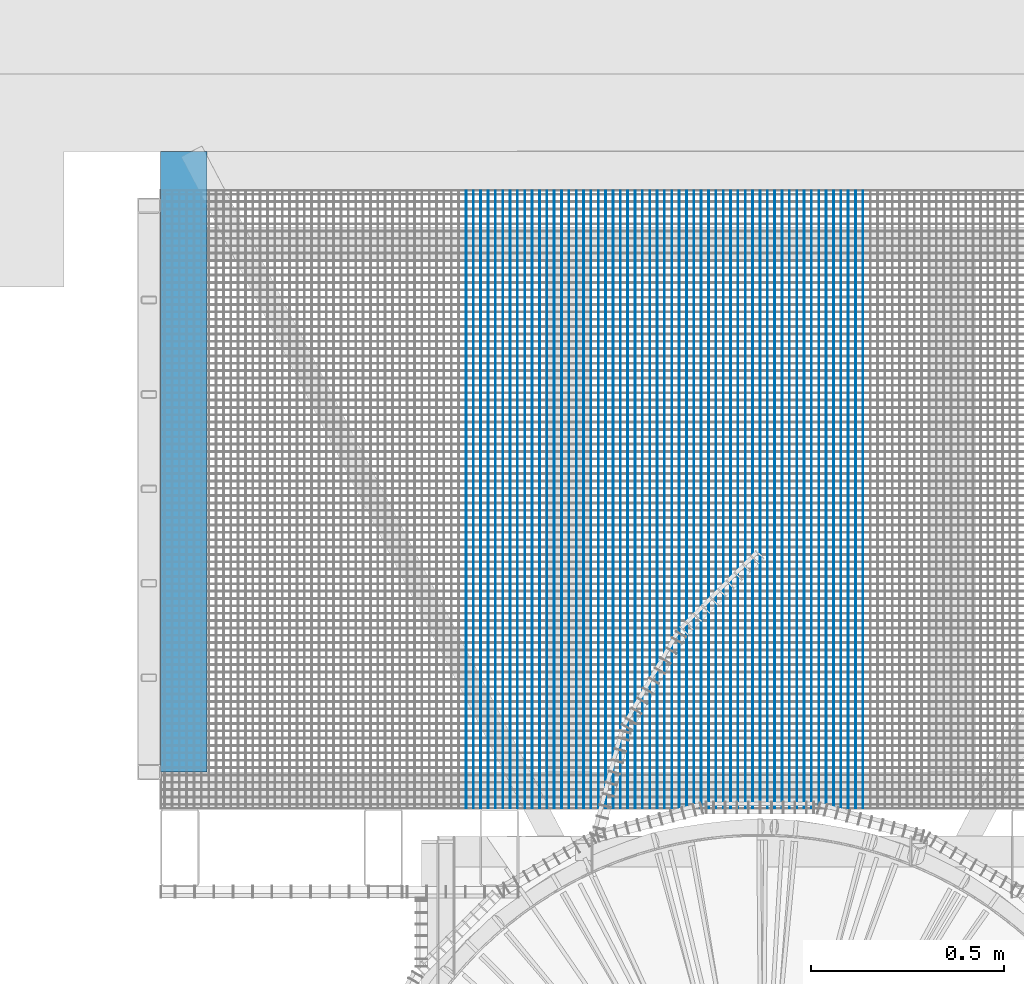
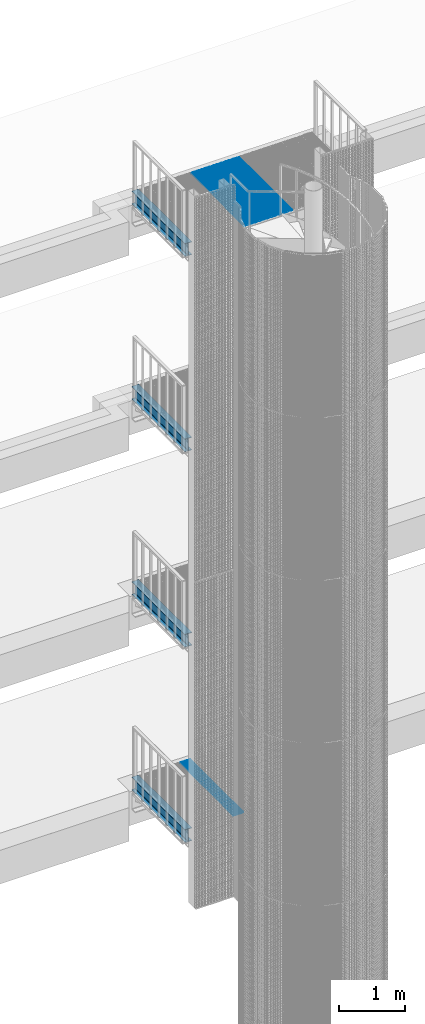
# One storey, part 81 of 1183: 59 beams, 6 elements without a shape of their own.
"""IFC2X3 building model written with IfcOpenShell, lengths in millimetres."""

from ifc_helpers import new_model, si_unit, frame, origin_with_axes, origin_2d_with_axis, place, context, subcontext, project, spatial, rectangle, i_section, extrude, material, type_object, element, aggregate, save


model = new_model("IFC2X3")

# Units and contexts
model_context = context("Model", 3, precision=1e-05, world=origin_with_axes())
body_context = subcontext(model_context, "Body", "Model", "MODEL_VIEW")
ifc_project = project(units=[si_unit("LENGTHUNIT", "METRE", prefix="MILLI"), si_unit("AREAUNIT", "SQUARE_METRE"), si_unit("VOLUMEUNIT", "CUBIC_METRE"), si_unit("MASSUNIT", "GRAM", prefix="KILO"), si_unit("TIMEUNIT", "SECOND"), si_unit("PLANEANGLEUNIT", "RADIAN"), si_unit("SOLIDANGLEUNIT", "STERADIAN"), si_unit("THERMODYNAMICTEMPERATUREUNIT", "DEGREE_CELSIUS"), si_unit("LUMINOUSINTENSITYUNIT", "LUMEN")], contexts=[model_context])

# Site, building, storey
site_placement = place(None, origin_with_axes())
site = spatial("IfcSite", under=ifc_project, at=site_placement, Name="Undefined", CompositionType="ELEMENT")
building_placement = place(site_placement, origin_with_axes())
building = spatial("IfcBuilding", under=site, at=building_placement, Name="Undefined", CompositionType="ELEMENT")
storey_placement = place(building_placement, origin_with_axes())
storey = spatial("IfcBuildingStorey", under=building, at=storey_placement, Name="Undefined", CompositionType="ELEMENT", Elevation=0.0)

# Assembly, beams
assembly_1_placement = place(storey_placement, origin_with_axes())
assembly_1 = element("IfcElementAssembly", 1, at=assembly_1_placement, inside=storey, Name="BORDURE", AssemblyPlace="NOTDEFINED", PredefinedType="NOTDEFINED")
ifc_material = material(Name="STEEL/S235JR")
beam_type_1 = type_object("IfcBeamType", Name="PL2*10", PredefinedType="NOTDEFINED")
beam_1_placement = place(assembly_1_placement, frame((-569.924575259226, 1101.99951347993, 17285.0), z_axis=(0.0, 0.0, 1.0), x_axis=(-4.50599999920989e-06, 0.999999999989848, 0.0)))
beam_1 = element("IfcBeam", 2, at=beam_1_placement, type_object=beam_type_1, material=ifc_material, Name="ENTRETOISE", context=body_context, shape_type="SweptSolid", body=[
    extrude(rectangle(XDim=2.0, YDim=10.0, at=origin_2d_with_axis()), frame((1596.0000000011, -1.35186458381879e-18, -7.27595761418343e-12), z_axis=(-1.0, 0.0, 0.0), x_axis=(0.0, -1.0, 0.0)), (0.0, 0.0, 1.0), 1596.0),
])
beam_2_placement = place(assembly_1_placement, frame((-550.92457525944, 1101.99960699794, 17285.0), z_axis=(0.0, 0.0, 1.0), x_axis=(-4.50599999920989e-06, 0.999999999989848, 0.0)))
beam_2 = element("IfcBeam", 3, at=beam_2_placement, type_object=beam_type_1, material=ifc_material, Name="ENTRETOISE", context=body_context, shape_type="SweptSolid", body=[
    extrude(rectangle(XDim=2.0, YDim=10.0, at=origin_2d_with_axis()), frame((1596.0000000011, -1.35186458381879e-18, -7.27595761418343e-12), z_axis=(-1.0, 0.0, 0.0), x_axis=(0.0, -1.0, 0.0)), (0.0, 0.0, 1.0), 1596.0),
])
beam_3_placement = place(assembly_1_placement, frame((-531.924575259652, 1101.99970051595, 17285.0), z_axis=(0.0, 0.0, 1.0), x_axis=(-4.50599999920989e-06, 0.999999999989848, 0.0)))
beam_3 = element("IfcBeam", 4, at=beam_3_placement, type_object=beam_type_1, material=ifc_material, Name="ENTRETOISE", context=body_context, shape_type="SweptSolid", body=[
    extrude(rectangle(XDim=2.0, YDim=10.0, at=origin_2d_with_axis()), frame((1596.0000000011, -1.35186458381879e-18, -7.27595761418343e-12), z_axis=(-1.0, 0.0, 0.0), x_axis=(0.0, -1.0, 0.0)), (0.0, 0.0, 1.0), 1596.0),
])
beam_4_placement = place(assembly_1_placement, frame((-512.924575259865, 1101.99979403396, 17285.0), z_axis=(0.0, 0.0, 1.0), x_axis=(-4.50599999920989e-06, 0.999999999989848, 0.0)))
beam_4 = element("IfcBeam", 5, at=beam_4_placement, type_object=beam_type_1, material=ifc_material, Name="ENTRETOISE", context=body_context, shape_type="SweptSolid", body=[
    extrude(rectangle(XDim=2.0, YDim=10.0, at=origin_2d_with_axis()), frame((1596.0000000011, -1.35186458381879e-18, -7.27595761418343e-12), z_axis=(-1.0, 0.0, 0.0), x_axis=(0.0, -1.0, 0.0)), (0.0, 0.0, 1.0), 1596.0),
])
beam_5_placement = place(assembly_1_placement, frame((-493.924575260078, 1101.99988755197, 17285.0), z_axis=(0.0, 0.0, 1.0), x_axis=(-4.50599999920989e-06, 0.999999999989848, 0.0)))
beam_5 = element("IfcBeam", 6, at=beam_5_placement, type_object=beam_type_1, material=ifc_material, Name="ENTRETOISE", context=body_context, shape_type="SweptSolid", body=[
    extrude(rectangle(XDim=2.0, YDim=10.0, at=origin_2d_with_axis()), frame((1596.0000000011, -1.35186458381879e-18, -7.27595761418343e-12), z_axis=(-1.0, 0.0, 0.0), x_axis=(0.0, -1.0, 0.0)), (0.0, 0.0, 1.0), 1596.0),
])
beam_6_placement = place(assembly_1_placement, frame((-474.924575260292, 1101.99998106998, 17285.0), z_axis=(0.0, 0.0, 1.0), x_axis=(-4.50599999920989e-06, 0.999999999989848, 0.0)))
beam_6 = element("IfcBeam", 7, at=beam_6_placement, type_object=beam_type_1, material=ifc_material, Name="ENTRETOISE", context=body_context, shape_type="SweptSolid", body=[
    extrude(rectangle(XDim=2.0, YDim=10.0, at=origin_2d_with_axis()), frame((1596.0000000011, -1.35186458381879e-18, -7.27595761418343e-12), z_axis=(-1.0, 0.0, 0.0), x_axis=(0.0, -1.0, 0.0)), (0.0, 0.0, 1.0), 1596.0),
])
beam_7_placement = place(assembly_1_placement, frame((-455.924575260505, 1102.00007458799, 17285.0), z_axis=(0.0, 0.0, 1.0), x_axis=(-4.50599999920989e-06, 0.999999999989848, 0.0)))
beam_7 = element("IfcBeam", 8, at=beam_7_placement, type_object=beam_type_1, material=ifc_material, Name="ENTRETOISE", context=body_context, shape_type="SweptSolid", body=[
    extrude(rectangle(XDim=2.0, YDim=10.0, at=origin_2d_with_axis()), frame((1596.0000000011, -1.35186458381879e-18, -7.27595761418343e-12), z_axis=(-1.0, 0.0, 0.0), x_axis=(0.0, -1.0, 0.0)), (0.0, 0.0, 1.0), 1596.0),
])
beam_8_placement = place(assembly_1_placement, frame((-436.924575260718, 1102.00016810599, 17285.0), z_axis=(0.0, 0.0, 1.0), x_axis=(-4.50599999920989e-06, 0.999999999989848, 0.0)))
beam_8 = element("IfcBeam", 9, at=beam_8_placement, type_object=beam_type_1, material=ifc_material, Name="ENTRETOISE", context=body_context, shape_type="SweptSolid", body=[
    extrude(rectangle(XDim=2.0, YDim=10.0, at=origin_2d_with_axis()), frame((1596.0000000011, -1.35186458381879e-18, -7.27595761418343e-12), z_axis=(-1.0, 0.0, 0.0), x_axis=(0.0, -1.0, 0.0)), (0.0, 0.0, 1.0), 1596.0),
])
beam_9_placement = place(assembly_1_placement, frame((-417.924575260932, 1102.000261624, 17285.0), z_axis=(0.0, 0.0, 1.0), x_axis=(-4.50599999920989e-06, 0.999999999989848, 0.0)))
beam_9 = element("IfcBeam", 10, at=beam_9_placement, type_object=beam_type_1, material=ifc_material, Name="ENTRETOISE", context=body_context, shape_type="SweptSolid", body=[
    extrude(rectangle(XDim=2.0, YDim=10.0, at=origin_2d_with_axis()), frame((1596.0000000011, -1.35186458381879e-18, -7.27595761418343e-12), z_axis=(-1.0, 0.0, 0.0), x_axis=(0.0, -1.0, 0.0)), (0.0, 0.0, 1.0), 1596.0),
])
beam_10_placement = place(assembly_1_placement, frame((-398.924575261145, 1102.00035514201, 17285.0), z_axis=(0.0, 0.0, 1.0), x_axis=(-4.50599999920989e-06, 0.999999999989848, 0.0)))
beam_10 = element("IfcBeam", 11, at=beam_10_placement, type_object=beam_type_1, material=ifc_material, Name="ENTRETOISE", context=body_context, shape_type="SweptSolid", body=[
    extrude(rectangle(XDim=2.0, YDim=10.0, at=origin_2d_with_axis()), frame((1596.0000000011, -1.35186458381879e-18, -7.27595761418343e-12), z_axis=(-1.0, 0.0, 0.0), x_axis=(0.0, -1.0, 0.0)), (0.0, 0.0, 1.0), 1596.0),
])
beam_11_placement = place(assembly_1_placement, frame((-379.924575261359, 1102.00044866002, 17285.0), z_axis=(0.0, 0.0, 1.0), x_axis=(-4.50599999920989e-06, 0.999999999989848, 0.0)))
beam_11 = element("IfcBeam", 12, at=beam_11_placement, type_object=beam_type_1, material=ifc_material, Name="ENTRETOISE", context=body_context, shape_type="SweptSolid", body=[
    extrude(rectangle(XDim=2.0, YDim=10.0, at=origin_2d_with_axis()), frame((1596.0000000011, -1.35186458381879e-18, -7.27595761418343e-12), z_axis=(-1.0, 0.0, 0.0), x_axis=(0.0, -1.0, 0.0)), (0.0, 0.0, 1.0), 1596.0),
])
beam_12_placement = place(assembly_1_placement, frame((-360.924575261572, 1102.00054217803, 17285.0), z_axis=(0.0, 0.0, 1.0), x_axis=(-4.50599999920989e-06, 0.999999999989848, 0.0)))
beam_12 = element("IfcBeam", 13, at=beam_12_placement, type_object=beam_type_1, material=ifc_material, Name="ENTRETOISE", context=body_context, shape_type="SweptSolid", body=[
    extrude(rectangle(XDim=2.0, YDim=10.0, at=origin_2d_with_axis()), frame((1596.0000000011, -1.35186458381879e-18, -7.27595761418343e-12), z_axis=(-1.0, 0.0, 0.0), x_axis=(0.0, -1.0, 0.0)), (0.0, 0.0, 1.0), 1596.0),
])
beam_13_placement = place(assembly_1_placement, frame((-341.924575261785, 1102.00063569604, 17285.0), z_axis=(0.0, 0.0, 1.0), x_axis=(-4.50599999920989e-06, 0.999999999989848, 0.0)))
beam_13 = element("IfcBeam", 14, at=beam_13_placement, type_object=beam_type_1, material=ifc_material, Name="ENTRETOISE", context=body_context, shape_type="SweptSolid", body=[
    extrude(rectangle(XDim=2.0, YDim=10.0, at=origin_2d_with_axis()), frame((1596.0000000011, -1.35186458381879e-18, -7.27595761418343e-12), z_axis=(-1.0, 0.0, 0.0), x_axis=(0.0, -1.0, 0.0)), (0.0, 0.0, 1.0), 1596.0),
])
beam_14_placement = place(assembly_1_placement, frame((-322.924575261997, 1102.00072921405, 17285.0), z_axis=(0.0, 0.0, 1.0), x_axis=(-4.50599999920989e-06, 0.999999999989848, 0.0)))
beam_14 = element("IfcBeam", 15, at=beam_14_placement, type_object=beam_type_1, material=ifc_material, Name="ENTRETOISE", context=body_context, shape_type="SweptSolid", body=[
    extrude(rectangle(XDim=2.0, YDim=10.0, at=origin_2d_with_axis()), frame((1596.0000000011, -1.35186458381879e-18, -7.27595761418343e-12), z_axis=(-1.0, 0.0, 0.0), x_axis=(0.0, -1.0, 0.0)), (0.0, 0.0, 1.0), 1596.0),
])
beam_15_placement = place(assembly_1_placement, frame((-303.924575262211, 1102.00082273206, 17285.0), z_axis=(0.0, 0.0, 1.0), x_axis=(-4.50599999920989e-06, 0.999999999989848, 0.0)))
beam_15 = element("IfcBeam", 16, at=beam_15_placement, type_object=beam_type_1, material=ifc_material, Name="ENTRETOISE", context=body_context, shape_type="SweptSolid", body=[
    extrude(rectangle(XDim=2.0, YDim=10.0, at=origin_2d_with_axis()), frame((1596.0000000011, -1.35186458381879e-18, -7.27595761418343e-12), z_axis=(-1.0, 0.0, 0.0), x_axis=(0.0, -1.0, 0.0)), (0.0, 0.0, 1.0), 1596.0),
])
beam_16_placement = place(assembly_1_placement, frame((-284.924575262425, 1102.00091625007, 17285.0), z_axis=(0.0, 0.0, 1.0), x_axis=(-4.50599999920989e-06, 0.999999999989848, 0.0)))
beam_16 = element("IfcBeam", 17, at=beam_16_placement, type_object=beam_type_1, material=ifc_material, Name="ENTRETOISE", context=body_context, shape_type="SweptSolid", body=[
    extrude(rectangle(XDim=2.0, YDim=10.0, at=origin_2d_with_axis()), frame((1596.0000000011, -1.35186458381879e-18, -7.27595761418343e-12), z_axis=(-1.0, 0.0, 0.0), x_axis=(0.0, -1.0, 0.0)), (0.0, 0.0, 1.0), 1596.0),
])
beam_17_placement = place(assembly_1_placement, frame((-265.924575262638, 1102.00100976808, 17285.0), z_axis=(0.0, 0.0, 1.0), x_axis=(-4.50599999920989e-06, 0.999999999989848, 0.0)))
beam_17 = element("IfcBeam", 18, at=beam_17_placement, type_object=beam_type_1, material=ifc_material, Name="ENTRETOISE", context=body_context, shape_type="SweptSolid", body=[
    extrude(rectangle(XDim=2.0, YDim=10.0, at=origin_2d_with_axis()), frame((1596.0000000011, -1.35186458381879e-18, -7.27595761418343e-12), z_axis=(-1.0, 0.0, 0.0), x_axis=(0.0, -1.0, 0.0)), (0.0, 0.0, 1.0), 1596.0),
])
beam_18_placement = place(assembly_1_placement, frame((-246.92457526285, 1102.00110328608, 17285.0), z_axis=(0.0, 0.0, 1.0), x_axis=(-4.50599999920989e-06, 0.999999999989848, 0.0)))
beam_18 = element("IfcBeam", 19, at=beam_18_placement, type_object=beam_type_1, material=ifc_material, Name="ENTRETOISE", context=body_context, shape_type="SweptSolid", body=[
    extrude(rectangle(XDim=2.0, YDim=10.0, at=origin_2d_with_axis()), frame((1596.0000000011, -1.35186458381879e-18, -7.27595761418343e-12), z_axis=(-1.0, 0.0, 0.0), x_axis=(0.0, -1.0, 0.0)), (0.0, 0.0, 1.0), 1596.0),
])
beam_19_placement = place(assembly_1_placement, frame((-227.924575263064, 1102.00119680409, 17285.0), z_axis=(0.0, 0.0, 1.0), x_axis=(-4.50599999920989e-06, 0.999999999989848, 0.0)))
beam_19 = element("IfcBeam", 20, at=beam_19_placement, type_object=beam_type_1, material=ifc_material, Name="ENTRETOISE", context=body_context, shape_type="SweptSolid", body=[
    extrude(rectangle(XDim=2.0, YDim=10.0, at=origin_2d_with_axis()), frame((1596.0000000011, -1.35186458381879e-18, -7.27595761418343e-12), z_axis=(-1.0, 0.0, 0.0), x_axis=(0.0, -1.0, 0.0)), (0.0, 0.0, 1.0), 1596.0),
])
beam_20_placement = place(assembly_1_placement, frame((-208.924575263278, 1102.0012903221, 17285.0), z_axis=(0.0, 0.0, 1.0), x_axis=(-4.50599999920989e-06, 0.999999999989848, 0.0)))
beam_20 = element("IfcBeam", 21, at=beam_20_placement, type_object=beam_type_1, material=ifc_material, Name="ENTRETOISE", context=body_context, shape_type="SweptSolid", body=[
    extrude(rectangle(XDim=2.0, YDim=10.0, at=origin_2d_with_axis()), frame((1596.0000000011, -1.35186458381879e-18, -7.27595761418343e-12), z_axis=(-1.0, 0.0, 0.0), x_axis=(0.0, -1.0, 0.0)), (0.0, 0.0, 1.0), 1596.0),
])
beam_21_placement = place(assembly_1_placement, frame((-189.924575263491, 1102.00138384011, 17285.0), z_axis=(0.0, 0.0, 1.0), x_axis=(-4.50599999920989e-06, 0.999999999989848, 0.0)))
beam_21 = element("IfcBeam", 22, at=beam_21_placement, type_object=beam_type_1, material=ifc_material, Name="ENTRETOISE", context=body_context, shape_type="SweptSolid", body=[
    extrude(rectangle(XDim=2.0, YDim=10.0, at=origin_2d_with_axis()), frame((1596.0000000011, -1.35186458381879e-18, -7.27595761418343e-12), z_axis=(-1.0, 0.0, 0.0), x_axis=(0.0, -1.0, 0.0)), (0.0, 0.0, 1.0), 1596.0),
])
beam_22_placement = place(assembly_1_placement, frame((-170.924575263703, 1102.00147735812, 17285.0), z_axis=(0.0, 0.0, 1.0), x_axis=(-4.50599999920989e-06, 0.999999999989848, 0.0)))
beam_22 = element("IfcBeam", 23, at=beam_22_placement, type_object=beam_type_1, material=ifc_material, Name="ENTRETOISE", context=body_context, shape_type="SweptSolid", body=[
    extrude(rectangle(XDim=2.0, YDim=10.0, at=origin_2d_with_axis()), frame((1596.0000000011, -1.35186458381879e-18, -7.27595761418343e-12), z_axis=(-1.0, 0.0, 0.0), x_axis=(0.0, -1.0, 0.0)), (0.0, 0.0, 1.0), 1596.0),
])
beam_23_placement = place(assembly_1_placement, frame((-151.924575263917, 1102.00157087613, 17285.0), z_axis=(0.0, 0.0, 1.0), x_axis=(-4.50599999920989e-06, 0.999999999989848, 0.0)))
beam_23 = element("IfcBeam", 24, at=beam_23_placement, type_object=beam_type_1, material=ifc_material, Name="ENTRETOISE", context=body_context, shape_type="SweptSolid", body=[
    extrude(rectangle(XDim=2.0, YDim=10.0, at=origin_2d_with_axis()), frame((1596.0000000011, -1.35186458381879e-18, -7.27595761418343e-12), z_axis=(-1.0, 0.0, 0.0), x_axis=(0.0, -1.0, 0.0)), (0.0, 0.0, 1.0), 1596.0),
])
beam_24_placement = place(assembly_1_placement, frame((-132.92457526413, 1102.00166439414, 17285.0), z_axis=(0.0, 0.0, 1.0), x_axis=(-4.50599999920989e-06, 0.999999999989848, 0.0)))
beam_24 = element("IfcBeam", 25, at=beam_24_placement, type_object=beam_type_1, material=ifc_material, Name="ENTRETOISE", context=body_context, shape_type="SweptSolid", body=[
    extrude(rectangle(XDim=2.0, YDim=10.0, at=origin_2d_with_axis()), frame((1596.0000000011, -1.35186458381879e-18, -7.27595761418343e-12), z_axis=(-1.0, 0.0, 0.0), x_axis=(0.0, -1.0, 0.0)), (0.0, 0.0, 1.0), 1596.0),
])
beam_25_placement = place(assembly_1_placement, frame((-113.924575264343, 1102.00175791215, 17285.0), z_axis=(0.0, 0.0, 1.0), x_axis=(-4.50599999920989e-06, 0.999999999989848, 0.0)))
beam_25 = element("IfcBeam", 26, at=beam_25_placement, type_object=beam_type_1, material=ifc_material, Name="ENTRETOISE", context=body_context, shape_type="SweptSolid", body=[
    extrude(rectangle(XDim=2.0, YDim=10.0, at=origin_2d_with_axis()), frame((1596.0000000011, -1.35186458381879e-18, -7.27595761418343e-12), z_axis=(-1.0, 0.0, 0.0), x_axis=(0.0, -1.0, 0.0)), (0.0, 0.0, 1.0), 1596.0),
])
beam_26_placement = place(assembly_1_placement, frame((-94.9245752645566, 1102.00185143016, 17285.0), z_axis=(0.0, 0.0, 1.0), x_axis=(-4.50599999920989e-06, 0.999999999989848, 0.0)))
beam_26 = element("IfcBeam", 27, at=beam_26_placement, type_object=beam_type_1, material=ifc_material, Name="ENTRETOISE", context=body_context, shape_type="SweptSolid", body=[
    extrude(rectangle(XDim=2.0, YDim=10.0, at=origin_2d_with_axis()), frame((1596.0000000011, -1.35186458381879e-18, -7.27595761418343e-12), z_axis=(-1.0, 0.0, 0.0), x_axis=(0.0, -1.0, 0.0)), (0.0, 0.0, 1.0), 1596.0),
])
beam_27_placement = place(assembly_1_placement, frame((-75.9245752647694, 1102.00194494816, 17285.0), z_axis=(0.0, 0.0, 1.0), x_axis=(-4.50599999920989e-06, 0.999999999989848, 0.0)))
beam_27 = element("IfcBeam", 28, at=beam_27_placement, type_object=beam_type_1, material=ifc_material, Name="ENTRETOISE", context=body_context, shape_type="SweptSolid", body=[
    extrude(rectangle(XDim=2.0, YDim=10.0, at=origin_2d_with_axis()), frame((1596.0000000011, -1.35186458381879e-18, -7.27595761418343e-12), z_axis=(-1.0, 0.0, 0.0), x_axis=(0.0, -1.0, 0.0)), (0.0, 0.0, 1.0), 1596.0),
])
beam_28_placement = place(assembly_1_placement, frame((-56.9245752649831, 1102.00203846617, 17285.0), z_axis=(0.0, 0.0, 1.0), x_axis=(-4.50599999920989e-06, 0.999999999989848, 0.0)))
beam_28 = element("IfcBeam", 29, at=beam_28_placement, type_object=beam_type_1, material=ifc_material, Name="ENTRETOISE", context=body_context, shape_type="SweptSolid", body=[
    extrude(rectangle(XDim=2.0, YDim=10.0, at=origin_2d_with_axis()), frame((1596.0000000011, -1.35186458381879e-18, -7.27595761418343e-12), z_axis=(-1.0, 0.0, 0.0), x_axis=(0.0, -1.0, 0.0)), (0.0, 0.0, 1.0), 1596.0),
])
beam_29_placement = place(assembly_1_placement, frame((-37.9245752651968, 1102.00213198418, 17285.0), z_axis=(0.0, 0.0, 1.0), x_axis=(-4.50599999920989e-06, 0.999999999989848, 0.0)))
beam_29 = element("IfcBeam", 30, at=beam_29_placement, type_object=beam_type_1, material=ifc_material, Name="ENTRETOISE", context=body_context, shape_type="SweptSolid", body=[
    extrude(rectangle(XDim=2.0, YDim=10.0, at=origin_2d_with_axis()), frame((1596.0000000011, -1.35186458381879e-18, -7.27595761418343e-12), z_axis=(-1.0, 0.0, 0.0), x_axis=(0.0, -1.0, 0.0)), (0.0, 0.0, 1.0), 1596.0),
])
beam_30_placement = place(assembly_1_placement, frame((-18.9245752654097, 1102.00222550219, 17285.0), z_axis=(0.0, 0.0, 1.0), x_axis=(-4.50599999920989e-06, 0.999999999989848, 0.0)))
beam_30 = element("IfcBeam", 31, at=beam_30_placement, type_object=beam_type_1, material=ifc_material, Name="ENTRETOISE", context=body_context, shape_type="SweptSolid", body=[
    extrude(rectangle(XDim=2.0, YDim=10.0, at=origin_2d_with_axis()), frame((1596.0000000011, -1.35186458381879e-18, -7.27595761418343e-12), z_axis=(-1.0, 0.0, 0.0), x_axis=(0.0, -1.0, 0.0)), (0.0, 0.0, 1.0), 1596.0),
])
beam_31_placement = place(assembly_1_placement, frame((0.075424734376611, 1102.0023190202, 17285.0), z_axis=(0.0, 0.0, 1.0), x_axis=(-4.50599999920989e-06, 0.999999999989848, 0.0)))
beam_31 = element("IfcBeam", 32, at=beam_31_placement, type_object=beam_type_1, material=ifc_material, Name="ENTRETOISE", context=body_context, shape_type="SweptSolid", body=[
    extrude(rectangle(XDim=2.0, YDim=10.0, at=origin_2d_with_axis()), frame((1596.0000000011, -1.35186458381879e-18, -7.27595761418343e-12), z_axis=(-1.0, 0.0, 0.0), x_axis=(0.0, -1.0, 0.0)), (0.0, 0.0, 1.0), 1596.0),
])
beam_32_placement = place(assembly_1_placement, frame((19.0754247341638, 1102.00241253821, 17285.0), z_axis=(0.0, 0.0, 1.0), x_axis=(-4.50599999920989e-06, 0.999999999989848, 0.0)))
beam_32 = element("IfcBeam", 33, at=beam_32_placement, type_object=beam_type_1, material=ifc_material, Name="ENTRETOISE", context=body_context, shape_type="SweptSolid", body=[
    extrude(rectangle(XDim=2.0, YDim=10.0, at=origin_2d_with_axis()), frame((1596.0000000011, -1.35186458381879e-18, -7.27595761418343e-12), z_axis=(-1.0, 0.0, 0.0), x_axis=(0.0, -1.0, 0.0)), (0.0, 0.0, 1.0), 1596.0),
])
beam_33_placement = place(assembly_1_placement, frame((38.0754247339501, 1102.00250605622, 17285.0), z_axis=(0.0, 0.0, 1.0), x_axis=(-4.50599999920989e-06, 0.999999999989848, 0.0)))
beam_33 = element("IfcBeam", 34, at=beam_33_placement, type_object=beam_type_1, material=ifc_material, Name="ENTRETOISE", context=body_context, shape_type="SweptSolid", body=[
    extrude(rectangle(XDim=2.0, YDim=10.0, at=origin_2d_with_axis()), frame((1596.0000000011, -1.35186458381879e-18, -7.27595761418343e-12), z_axis=(-1.0, 0.0, 0.0), x_axis=(0.0, -1.0, 0.0)), (0.0, 0.0, 1.0), 1596.0),
])
beam_34_placement = place(assembly_1_placement, frame((57.0754247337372, 1102.00259957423, 17285.0), z_axis=(0.0, 0.0, 1.0), x_axis=(-4.50599999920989e-06, 0.999999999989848, 0.0)))
beam_34 = element("IfcBeam", 35, at=beam_34_placement, type_object=beam_type_1, material=ifc_material, Name="ENTRETOISE", context=body_context, shape_type="SweptSolid", body=[
    extrude(rectangle(XDim=2.0, YDim=10.0, at=origin_2d_with_axis()), frame((1596.0000000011, -1.35186458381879e-18, -7.27595761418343e-12), z_axis=(-1.0, 0.0, 0.0), x_axis=(0.0, -1.0, 0.0)), (0.0, 0.0, 1.0), 1596.0),
])
beam_35_placement = place(assembly_1_placement, frame((76.0754247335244, 1102.00269309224, 17285.0), z_axis=(0.0, 0.0, 1.0), x_axis=(-4.50599999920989e-06, 0.999999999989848, 0.0)))
beam_35 = element("IfcBeam", 36, at=beam_35_placement, type_object=beam_type_1, material=ifc_material, Name="ENTRETOISE", context=body_context, shape_type="SweptSolid", body=[
    extrude(rectangle(XDim=2.0, YDim=10.0, at=origin_2d_with_axis()), frame((1596.0000000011, -1.35186458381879e-18, -7.27595761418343e-12), z_axis=(-1.0, 0.0, 0.0), x_axis=(0.0, -1.0, 0.0)), (0.0, 0.0, 1.0), 1596.0),
])
beam_36_placement = place(assembly_1_placement, frame((95.0754247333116, 1102.00278661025, 17285.0), z_axis=(0.0, 0.0, 1.0), x_axis=(-4.50599999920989e-06, 0.999999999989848, 0.0)))
beam_36 = element("IfcBeam", 37, at=beam_36_placement, type_object=beam_type_1, material=ifc_material, Name="ENTRETOISE", context=body_context, shape_type="SweptSolid", body=[
    extrude(rectangle(XDim=2.0, YDim=10.0, at=origin_2d_with_axis()), frame((1596.0000000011, -1.35186458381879e-18, -7.27595761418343e-12), z_axis=(-1.0, 0.0, 0.0), x_axis=(0.0, -1.0, 0.0)), (0.0, 0.0, 1.0), 1596.0),
])
beam_37_placement = place(assembly_1_placement, frame((114.075424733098, 1102.00288012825, 17285.0), z_axis=(0.0, 0.0, 1.0), x_axis=(-4.50599999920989e-06, 0.999999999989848, 0.0)))
beam_37 = element("IfcBeam", 38, at=beam_37_placement, type_object=beam_type_1, material=ifc_material, Name="ENTRETOISE", context=body_context, shape_type="SweptSolid", body=[
    extrude(rectangle(XDim=2.0, YDim=10.0, at=origin_2d_with_axis()), frame((1596.0000000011, -1.35186458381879e-18, -7.27595761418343e-12), z_axis=(-1.0, 0.0, 0.0), x_axis=(0.0, -1.0, 0.0)), (0.0, 0.0, 1.0), 1596.0),
])
beam_38_placement = place(assembly_1_placement, frame((133.075424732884, 1102.00297364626, 17285.0), z_axis=(0.0, 0.0, 1.0), x_axis=(-4.50599999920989e-06, 0.999999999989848, 0.0)))
beam_38 = element("IfcBeam", 39, at=beam_38_placement, type_object=beam_type_1, material=ifc_material, Name="ENTRETOISE", context=body_context, shape_type="SweptSolid", body=[
    extrude(rectangle(XDim=2.0, YDim=10.0, at=origin_2d_with_axis()), frame((1596.0000000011, -1.35186458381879e-18, -7.27595761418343e-12), z_axis=(-1.0, 0.0, 0.0), x_axis=(0.0, -1.0, 0.0)), (0.0, 0.0, 1.0), 1596.0),
])
beam_39_placement = place(assembly_1_placement, frame((152.075424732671, 1102.00306716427, 17285.0), z_axis=(0.0, 0.0, 1.0), x_axis=(-4.50599999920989e-06, 0.999999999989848, 0.0)))
beam_39 = element("IfcBeam", 40, at=beam_39_placement, type_object=beam_type_1, material=ifc_material, Name="ENTRETOISE", context=body_context, shape_type="SweptSolid", body=[
    extrude(rectangle(XDim=2.0, YDim=10.0, at=origin_2d_with_axis()), frame((1596.0000000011, -1.35186458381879e-18, -7.27595761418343e-12), z_axis=(-1.0, 0.0, 0.0), x_axis=(0.0, -1.0, 0.0)), (0.0, 0.0, 1.0), 1596.0),
])
beam_40_placement = place(assembly_1_placement, frame((171.075424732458, 1102.00316068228, 17285.0), z_axis=(0.0, 0.0, 1.0), x_axis=(-4.50599999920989e-06, 0.999999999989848, 0.0)))
beam_40 = element("IfcBeam", 41, at=beam_40_placement, type_object=beam_type_1, material=ifc_material, Name="ENTRETOISE", context=body_context, shape_type="SweptSolid", body=[
    extrude(rectangle(XDim=2.0, YDim=10.0, at=origin_2d_with_axis()), frame((1596.0000000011, -1.35186458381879e-18, -7.27595761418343e-12), z_axis=(-1.0, 0.0, 0.0), x_axis=(0.0, -1.0, 0.0)), (0.0, 0.0, 1.0), 1596.0),
])
beam_41_placement = place(assembly_1_placement, frame((190.075424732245, 1102.00325420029, 17285.0), z_axis=(0.0, 0.0, 1.0), x_axis=(-4.50599999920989e-06, 0.999999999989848, 0.0)))
beam_41 = element("IfcBeam", 42, at=beam_41_placement, type_object=beam_type_1, material=ifc_material, Name="ENTRETOISE", context=body_context, shape_type="SweptSolid", body=[
    extrude(rectangle(XDim=2.0, YDim=10.0, at=origin_2d_with_axis()), frame((1596.0000000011, -1.35186458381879e-18, -7.27595761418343e-12), z_axis=(-1.0, 0.0, 0.0), x_axis=(0.0, -1.0, 0.0)), (0.0, 0.0, 1.0), 1596.0),
])
beam_42_placement = place(assembly_1_placement, frame((209.075424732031, 1102.0033477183, 17285.0), z_axis=(0.0, 0.0, 1.0), x_axis=(-4.50599999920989e-06, 0.999999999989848, 0.0)))
beam_42 = element("IfcBeam", 43, at=beam_42_placement, type_object=beam_type_1, material=ifc_material, Name="ENTRETOISE", context=body_context, shape_type="SweptSolid", body=[
    extrude(rectangle(XDim=2.0, YDim=10.0, at=origin_2d_with_axis()), frame((1596.0000000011, -1.35186458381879e-18, -7.27595761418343e-12), z_axis=(-1.0, 0.0, 0.0), x_axis=(0.0, -1.0, 0.0)), (0.0, 0.0, 1.0), 1596.0),
])
beam_43_placement = place(assembly_1_placement, frame((228.075424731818, 1102.00344123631, 17285.0), z_axis=(0.0, 0.0, 1.0), x_axis=(-4.50599999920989e-06, 0.999999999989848, 0.0)))
beam_43 = element("IfcBeam", 44, at=beam_43_placement, type_object=beam_type_1, material=ifc_material, Name="ENTRETOISE", context=body_context, shape_type="SweptSolid", body=[
    extrude(rectangle(XDim=2.0, YDim=10.0, at=origin_2d_with_axis()), frame((1596.0000000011, -1.35186458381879e-18, -7.27595761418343e-12), z_axis=(-1.0, 0.0, 0.0), x_axis=(0.0, -1.0, 0.0)), (0.0, 0.0, 1.0), 1596.0),
])
beam_44_placement = place(assembly_1_placement, frame((247.075424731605, 1102.00353475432, 17285.0), z_axis=(0.0, 0.0, 1.0), x_axis=(-4.50599999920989e-06, 0.999999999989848, 0.0)))
beam_44 = element("IfcBeam", 45, at=beam_44_placement, type_object=beam_type_1, material=ifc_material, Name="ENTRETOISE", context=body_context, shape_type="SweptSolid", body=[
    extrude(rectangle(XDim=2.0, YDim=10.0, at=origin_2d_with_axis()), frame((1596.0000000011, -1.35186458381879e-18, -7.27595761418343e-12), z_axis=(-1.0, 0.0, 0.0), x_axis=(0.0, -1.0, 0.0)), (0.0, 0.0, 1.0), 1596.0),
])
beam_45_placement = place(assembly_1_placement, frame((266.075424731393, 1102.00362827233, 17285.0), z_axis=(0.0, 0.0, 1.0), x_axis=(-4.50599999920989e-06, 0.999999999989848, 0.0)))
beam_45 = element("IfcBeam", 46, at=beam_45_placement, type_object=beam_type_1, material=ifc_material, Name="ENTRETOISE", context=body_context, shape_type="SweptSolid", body=[
    extrude(rectangle(XDim=2.0, YDim=10.0, at=origin_2d_with_axis()), frame((1596.0000000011, -1.35186458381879e-18, -7.27595761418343e-12), z_axis=(-1.0, 0.0, 0.0), x_axis=(0.0, -1.0, 0.0)), (0.0, 0.0, 1.0), 1596.0),
])
aggregate(assembly_1, [beam_1, beam_2, beam_3, beam_4, beam_5, beam_6, beam_7, beam_8, beam_9, beam_10, beam_11, beam_12, beam_13, beam_14, beam_15, beam_16, beam_17, beam_18, beam_19, beam_20, beam_21, beam_22, beam_23, beam_24, beam_25, beam_26, beam_27, beam_28, beam_29, beam_30, beam_31, beam_32, beam_33, beam_34, beam_35, beam_36, beam_37, beam_38, beam_39, beam_40, beam_41, beam_42, beam_43, beam_44, beam_45])

assembly_2_placement = place(storey_placement, origin_with_axes())
assembly_2 = element("IfcElementAssembly", 47, at=assembly_2_placement, inside=storey, Name="BORDURE", AssemblyPlace="NOTDEFINED", PredefinedType="NOTDEFINED")
beam_46_placement = place(assembly_2_placement, frame((-759.924575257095, 1101.99857829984, 6485.0), z_axis=(0.0, 0.0, 1.0), x_axis=(-4.50599999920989e-06, 0.999999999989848, 0.0)))
beam_46 = element("IfcBeam", 48, at=beam_46_placement, type_object=beam_type_1, material=ifc_material, Name="ENTRETOISE", context=body_context, shape_type="SweptSolid", body=[
    extrude(rectangle(XDim=2.0, YDim=10.0, at=origin_2d_with_axis()), frame((1596.0000000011, -1.35186458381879e-18, -7.27595761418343e-12), z_axis=(-1.0, 0.0, 0.0), x_axis=(0.0, -1.0, 0.0)), (0.0, 0.0, 1.0), 1596.0),
])
beam_47_placement = place(assembly_2_placement, frame((-740.924575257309, 1101.99867181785, 6485.0), z_axis=(0.0, 0.0, 1.0), x_axis=(-4.50599999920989e-06, 0.999999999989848, 0.0)))
beam_47 = element("IfcBeam", 49, at=beam_47_placement, type_object=beam_type_1, material=ifc_material, Name="ENTRETOISE", context=body_context, shape_type="SweptSolid", body=[
    extrude(rectangle(XDim=2.0, YDim=10.0, at=origin_2d_with_axis()), frame((1596.0000000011, -1.35186458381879e-18, -7.27595761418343e-12), z_axis=(-1.0, 0.0, 0.0), x_axis=(0.0, -1.0, 0.0)), (0.0, 0.0, 1.0), 1596.0),
])
beam_48_placement = place(assembly_2_placement, frame((-721.924575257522, 1101.99876533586, 6485.0), z_axis=(0.0, 0.0, 1.0), x_axis=(-4.50599999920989e-06, 0.999999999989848, 0.0)))
beam_48 = element("IfcBeam", 50, at=beam_48_placement, type_object=beam_type_1, material=ifc_material, Name="ENTRETOISE", context=body_context, shape_type="SweptSolid", body=[
    extrude(rectangle(XDim=2.0, YDim=10.0, at=origin_2d_with_axis()), frame((1596.0000000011, -1.35186458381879e-18, -7.27595761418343e-12), z_axis=(-1.0, 0.0, 0.0), x_axis=(0.0, -1.0, 0.0)), (0.0, 0.0, 1.0), 1596.0),
])
beam_49_placement = place(assembly_2_placement, frame((-702.924575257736, 1101.99885885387, 6485.0), z_axis=(0.0, 0.0, 1.0), x_axis=(-4.50599999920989e-06, 0.999999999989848, 0.0)))
beam_49 = element("IfcBeam", 51, at=beam_49_placement, type_object=beam_type_1, material=ifc_material, Name="ENTRETOISE", context=body_context, shape_type="SweptSolid", body=[
    extrude(rectangle(XDim=2.0, YDim=10.0, at=origin_2d_with_axis()), frame((1596.0000000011, -1.35186458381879e-18, -7.27595761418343e-12), z_axis=(-1.0, 0.0, 0.0), x_axis=(0.0, -1.0, 0.0)), (0.0, 0.0, 1.0), 1596.0),
])
beam_50_placement = place(assembly_2_placement, frame((-683.924575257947, 1101.99895237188, 6485.0), z_axis=(0.0, 0.0, 1.0), x_axis=(-4.50599999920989e-06, 0.999999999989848, 0.0)))
beam_50 = element("IfcBeam", 52, at=beam_50_placement, type_object=beam_type_1, material=ifc_material, Name="ENTRETOISE", context=body_context, shape_type="SweptSolid", body=[
    extrude(rectangle(XDim=2.0, YDim=10.0, at=origin_2d_with_axis()), frame((1596.0000000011, -1.35186458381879e-18, -7.27595761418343e-12), z_axis=(-1.0, 0.0, 0.0), x_axis=(0.0, -1.0, 0.0)), (0.0, 0.0, 1.0), 1596.0),
])
beam_51_placement = place(assembly_2_placement, frame((-664.924575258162, 1101.99904588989, 6485.0), z_axis=(0.0, 0.0, 1.0), x_axis=(-4.50599999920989e-06, 0.999999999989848, 0.0)))
beam_51 = element("IfcBeam", 53, at=beam_51_placement, type_object=beam_type_1, material=ifc_material, Name="ENTRETOISE", context=body_context, shape_type="SweptSolid", body=[
    extrude(rectangle(XDim=2.0, YDim=10.0, at=origin_2d_with_axis()), frame((1596.0000000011, -1.35186458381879e-18, -7.27595761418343e-12), z_axis=(-1.0, 0.0, 0.0), x_axis=(0.0, -1.0, 0.0)), (0.0, 0.0, 1.0), 1596.0),
])
beam_52_placement = place(assembly_2_placement, frame((-645.924575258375, 1101.9991394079, 6485.0), z_axis=(0.0, 0.0, 1.0), x_axis=(-4.50599999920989e-06, 0.999999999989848, 0.0)))
beam_52 = element("IfcBeam", 54, at=beam_52_placement, type_object=beam_type_1, material=ifc_material, Name="ENTRETOISE", context=body_context, shape_type="SweptSolid", body=[
    extrude(rectangle(XDim=2.0, YDim=10.0, at=origin_2d_with_axis()), frame((1596.0000000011, -1.35186458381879e-18, -7.27595761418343e-12), z_axis=(-1.0, 0.0, 0.0), x_axis=(0.0, -1.0, 0.0)), (0.0, 0.0, 1.0), 1596.0),
])
beam_53_placement = place(assembly_2_placement, frame((-626.924575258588, 1101.9992329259, 6485.0), z_axis=(0.0, 0.0, 1.0), x_axis=(-4.50599999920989e-06, 0.999999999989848, 0.0)))
beam_53 = element("IfcBeam", 55, at=beam_53_placement, type_object=beam_type_1, material=ifc_material, Name="ENTRETOISE", context=body_context, shape_type="SweptSolid", body=[
    extrude(rectangle(XDim=2.0, YDim=10.0, at=origin_2d_with_axis()), frame((1596.0000000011, -1.35186458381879e-18, -7.27595761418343e-12), z_axis=(-1.0, 0.0, 0.0), x_axis=(0.0, -1.0, 0.0)), (0.0, 0.0, 1.0), 1596.0),
])
beam_54_placement = place(assembly_2_placement, frame((-607.9245752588, 1101.99932644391, 6485.0), z_axis=(0.0, 0.0, 1.0), x_axis=(-4.50599999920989e-06, 0.999999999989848, 0.0)))
beam_54 = element("IfcBeam", 56, at=beam_54_placement, type_object=beam_type_1, material=ifc_material, Name="ENTRETOISE", context=body_context, shape_type="SweptSolid", body=[
    extrude(rectangle(XDim=2.0, YDim=10.0, at=origin_2d_with_axis()), frame((1596.0000000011, -1.35186458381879e-18, -7.27595761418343e-12), z_axis=(-1.0, 0.0, 0.0), x_axis=(0.0, -1.0, 0.0)), (0.0, 0.0, 1.0), 1596.0),
])
beam_55_placement = place(assembly_2_placement, frame((-588.924575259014, 1101.99941996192, 6485.0), z_axis=(0.0, 0.0, 1.0), x_axis=(-4.50599999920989e-06, 0.999999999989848, 0.0)))
beam_55 = element("IfcBeam", 57, at=beam_55_placement, type_object=beam_type_1, material=ifc_material, Name="ENTRETOISE", context=body_context, shape_type="SweptSolid", body=[
    extrude(rectangle(XDim=2.0, YDim=10.0, at=origin_2d_with_axis()), frame((1596.0000000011, -1.35186458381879e-18, -7.27595761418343e-12), z_axis=(-1.0, 0.0, 0.0), x_axis=(0.0, -1.0, 0.0)), (0.0, 0.0, 1.0), 1596.0),
])
aggregate(assembly_2, [beam_46, beam_47, beam_48, beam_49, beam_50, beam_51, beam_52, beam_53, beam_54, beam_55])

# Assembly, beam
assembly_3_placement = place(storey_placement, origin_with_axes())
assembly_3 = element("IfcElementAssembly", 58, at=assembly_3_placement, inside=storey, AssemblyPlace="NOTDEFINED", PredefinedType="NOTDEFINED")
beam_type_2 = type_object("IfcBeamType", Name="IPE240", PredefinedType="NOTDEFINED")
beam_56_placement = place(assembly_3_placement, frame((-1489.92041016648, 1194.99494343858, 17120.0), z_axis=(0.0, 0.0, 1.0), x_axis=(-4.50599999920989e-06, 0.999999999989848, 0.0)))
beam_56 = element("IfcBeam", 59, at=beam_56_placement, type_object=beam_type_2, material=ifc_material, Name="EXISTANTS", context=body_context, shape_type="SweptSolid", body=[
    extrude(i_section(OverallWidth=120.0, OverallDepth=240.0, WebThickness=6.199999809, FlangeThickness=9.800000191, FilletRadius=15.0, at=origin_2d_with_axis()), frame((1605.0004478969, 0.0, 3.63797880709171e-12), z_axis=(-1.0, 0.0, 0.0), x_axis=(0.0, -1.0, 0.0)), (0.0, 0.0, 1.0), 1605.0),
])
aggregate(assembly_3, [beam_56])

assembly_4_placement = place(storey_placement, origin_with_axes())
assembly_4 = element("IfcElementAssembly", 60, at=assembly_4_placement, inside=storey, AssemblyPlace="NOTDEFINED", PredefinedType="NOTDEFINED")
beam_57_placement = place(assembly_4_placement, frame((-1489.92041016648, 1194.99494343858, 13520.0), z_axis=(0.0, 0.0, 1.0), x_axis=(-4.50599999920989e-06, 0.999999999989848, 0.0)))
beam_57 = element("IfcBeam", 61, at=beam_57_placement, type_object=beam_type_2, material=ifc_material, Name="EXISTANTS", context=body_context, shape_type="SweptSolid", body=[
    extrude(i_section(OverallWidth=120.0, OverallDepth=240.0, WebThickness=6.199999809, FlangeThickness=9.800000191, FilletRadius=15.0, at=origin_2d_with_axis()), frame((1605.0004478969, 0.0, 3.63797880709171e-12), z_axis=(-1.0, 0.0, 0.0), x_axis=(0.0, -1.0, 0.0)), (0.0, 0.0, 1.0), 1605.0),
])
aggregate(assembly_4, [beam_57])

assembly_5_placement = place(storey_placement, origin_with_axes())
assembly_5 = element("IfcElementAssembly", 62, at=assembly_5_placement, inside=storey, AssemblyPlace="NOTDEFINED", PredefinedType="NOTDEFINED")
beam_58_placement = place(assembly_5_placement, frame((-1489.92041016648, 1194.99494343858, 9920.0), z_axis=(0.0, 0.0, 1.0), x_axis=(-4.50599999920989e-06, 0.999999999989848, 0.0)))
beam_58 = element("IfcBeam", 63, at=beam_58_placement, type_object=beam_type_2, material=ifc_material, Name="EXISTANTS", context=body_context, shape_type="SweptSolid", body=[
    extrude(i_section(OverallWidth=120.0, OverallDepth=240.0, WebThickness=6.199999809, FlangeThickness=9.800000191, FilletRadius=15.0, at=origin_2d_with_axis()), frame((1605.0004478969, 0.0, 3.63797880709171e-12), z_axis=(-1.0, 0.0, 0.0), x_axis=(0.0, -1.0, 0.0)), (0.0, 0.0, 1.0), 1605.0),
])
aggregate(assembly_5, [beam_58])

assembly_6_placement = place(storey_placement, origin_with_axes())
assembly_6 = element("IfcElementAssembly", 64, at=assembly_6_placement, inside=storey, AssemblyPlace="NOTDEFINED", PredefinedType="NOTDEFINED")
beam_59_placement = place(assembly_6_placement, frame((-1489.92041016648, 1194.99494343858, 6320.0), z_axis=(0.0, 0.0, 1.0), x_axis=(-4.50599999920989e-06, 0.999999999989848, 0.0)))
beam_59 = element("IfcBeam", 65, at=beam_59_placement, type_object=beam_type_2, material=ifc_material, Name="EXISTANTS", context=body_context, shape_type="SweptSolid", body=[
    extrude(i_section(OverallWidth=120.0, OverallDepth=240.0, WebThickness=6.199999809, FlangeThickness=9.800000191, FilletRadius=15.0, at=origin_2d_with_axis()), frame((1605.0004478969, 0.0, 3.63797880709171e-12), z_axis=(-1.0, 0.0, 0.0), x_axis=(0.0, -1.0, 0.0)), (0.0, 0.0, 1.0), 1605.0),
])
aggregate(assembly_6, [beam_59])

save(model, "model.ifc")
